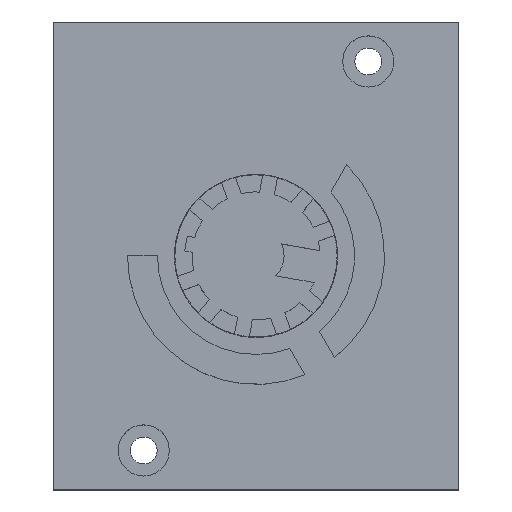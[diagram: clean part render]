
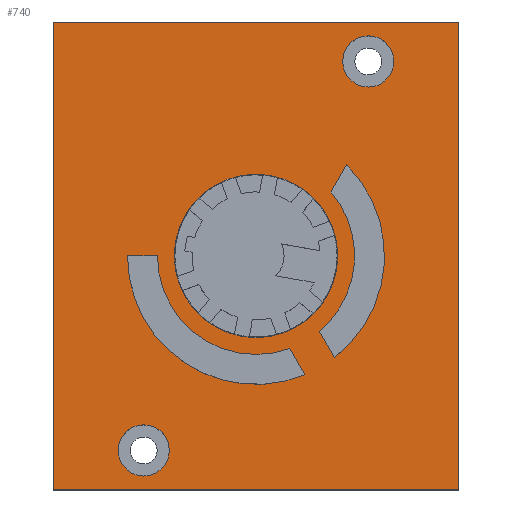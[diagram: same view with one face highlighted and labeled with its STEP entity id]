
A CAD part, top view. The second image highlights one B-rep face of the part: STEP entity #740.
In plain terms, the highlighted planar face has unit normal (0, 0, 1).
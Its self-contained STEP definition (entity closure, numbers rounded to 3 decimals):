
#247=DIRECTION('',(0.,-1.,0.));
#248=VECTOR('',#247,75.);
#249=CARTESIAN_POINT('',(-32.5,37.5,6.));
#250=LINE('',#249,#248);
#251=DIRECTION('',(-1.,0.,0.));
#252=VECTOR('',#251,65.);
#253=CARTESIAN_POINT('',(32.5,37.5,6.));
#254=LINE('',#253,#252);
#255=DIRECTION('',(0.,1.,0.));
#256=VECTOR('',#255,75.);
#257=CARTESIAN_POINT('',(32.5,-37.5,6.));
#258=LINE('',#257,#256);
#259=DIRECTION('',(1.,0.,0.));
#260=VECTOR('',#259,65.);
#261=CARTESIAN_POINT('',(-32.5,-37.5,6.));
#262=LINE('',#261,#260);
#263=CARTESIAN_POINT('',(0.,0.,6.));
#264=DIRECTION('',(0.,0.,1.));
#265=DIRECTION('',(-1.,0.,0.));
#266=AXIS2_PLACEMENT_3D('',#263,#264,#265);
#268=DIRECTION('',(-0.5,0.866,0.));
#269=VECTOR('',#268,4.857);
#270=CARTESIAN_POINT('',(7.826,-19.055,6.));
#271=LINE('',#270,#269);
#272=CARTESIAN_POINT('',(0.,0.,6.));
#273=DIRECTION('',(0.,0.,1.));
#274=DIRECTION('',(-1.,0.,0.));
#275=AXIS2_PLACEMENT_3D('',#272,#273,#274);
#277=DIRECTION('',(-1.,0.,0.));
#278=VECTOR('',#277,4.8);
#279=CARTESIAN_POINT('',(-15.8,0.,6.));
#280=LINE('',#279,#278);
#281=CARTESIAN_POINT('',(0.,0.,6.));
#282=DIRECTION('',(0.,0.,1.));
#283=DIRECTION('',(0.611,-0.792,0.));
#284=AXIS2_PLACEMENT_3D('',#281,#282,#283);
#286=DIRECTION('',(-0.5,-0.866,0.));
#287=VECTOR('',#286,5.022);
#288=CARTESIAN_POINT('',(14.543,14.59,6.));
#289=LINE('',#288,#287);
#290=CARTESIAN_POINT('',(0.,0.,6.));
#291=DIRECTION('',(0.,0.,1.));
#292=DIRECTION('',(0.643,-0.766,0.));
#293=AXIS2_PLACEMENT_3D('',#290,#291,#292);
#295=DIRECTION('',(0.5,-0.866,0.));
#296=VECTOR('',#295,4.857);
#297=CARTESIAN_POINT('',(10.161,-12.099,6.));
#298=LINE('',#297,#296);
#299=CARTESIAN_POINT('',(0.,0.,6.));
#300=DIRECTION('',(0.,0.,1.));
#301=DIRECTION('',(1.,0.,0.));
#302=AXIS2_PLACEMENT_3D('',#299,#300,#301);
#304=CARTESIAN_POINT('',(0.,0.,6.));
#305=DIRECTION('',(0.,0.,1.));
#306=DIRECTION('',(-1.,0.,0.));
#307=AXIS2_PLACEMENT_3D('',#304,#305,#306);
#309=CARTESIAN_POINT('',(18.,31.177,6.));
#310=DIRECTION('',(0.,0.,1.));
#311=DIRECTION('',(1.,0.,0.));
#312=AXIS2_PLACEMENT_3D('',#309,#310,#311);
#314=CARTESIAN_POINT('',(18.,31.177,6.));
#315=DIRECTION('',(0.,0.,1.));
#316=DIRECTION('',(-1.,0.,0.));
#317=AXIS2_PLACEMENT_3D('',#314,#315,#316);
#319=CARTESIAN_POINT('',(-18.,-31.177,6.));
#320=DIRECTION('',(0.,0.,1.));
#321=DIRECTION('',(1.,0.,0.));
#322=AXIS2_PLACEMENT_3D('',#319,#320,#321);
#324=CARTESIAN_POINT('',(-18.,-31.177,6.));
#325=DIRECTION('',(0.,0.,1.));
#326=DIRECTION('',(-1.,0.,0.));
#327=AXIS2_PLACEMENT_3D('',#324,#325,#326);
#513=CARTESIAN_POINT('',(-32.5,37.5,6.));
#514=CARTESIAN_POINT('',(-32.5,-37.5,6.));
#515=VERTEX_POINT('',#513);
#516=VERTEX_POINT('',#514);
#517=CARTESIAN_POINT('',(32.5,-37.5,6.));
#518=VERTEX_POINT('',#517);
#519=CARTESIAN_POINT('',(32.5,37.5,6.));
#520=VERTEX_POINT('',#519);
#545=CARTESIAN_POINT('',(-20.6,0.,6.));
#546=CARTESIAN_POINT('',(7.826,-19.055,6.));
#547=VERTEX_POINT('',#545);
#548=VERTEX_POINT('',#546);
#549=CARTESIAN_POINT('',(5.398,-14.849,6.));
#550=VERTEX_POINT('',#549);
#551=CARTESIAN_POINT('',(-15.8,0.,6.));
#552=VERTEX_POINT('',#551);
#553=CARTESIAN_POINT('',(12.589,-16.305,6.));
#554=CARTESIAN_POINT('',(14.543,14.59,6.));
#555=VERTEX_POINT('',#553);
#556=VERTEX_POINT('',#554);
#557=CARTESIAN_POINT('',(12.032,10.24,6.));
#558=VERTEX_POINT('',#557);
#559=CARTESIAN_POINT('',(10.161,-12.099,6.));
#560=VERTEX_POINT('',#559);
#561=CARTESIAN_POINT('',(13.1,0.,6.));
#562=CARTESIAN_POINT('',(-13.1,0.,6.));
#563=VERTEX_POINT('',#561);
#564=VERTEX_POINT('',#562);
#577=CARTESIAN_POINT('',(22.1,31.177,6.));
#578=CARTESIAN_POINT('',(13.9,31.177,6.));
#579=VERTEX_POINT('',#577);
#580=VERTEX_POINT('',#578);
#581=CARTESIAN_POINT('',(-13.9,-31.177,6.));
#582=CARTESIAN_POINT('',(-22.1,-31.177,6.));
#583=VERTEX_POINT('',#581);
#584=VERTEX_POINT('',#582);
#691=CARTESIAN_POINT('',(0.,0.,6.));
#692=DIRECTION('',(0.,0.,1.));
#693=DIRECTION('',(1.,0.,0.));
#694=AXIS2_PLACEMENT_3D('',#691,#692,#693);
#695=PLANE('',#694);
#696=ORIENTED_EDGE('',*,*,#643,.F.);
#697=ORIENTED_EDGE('',*,*,#658,.F.);
#698=ORIENTED_EDGE('',*,*,#672,.F.);
#699=ORIENTED_EDGE('',*,*,#685,.F.);
#700=EDGE_LOOP('',(#696,#697,#698,#699));
#701=FACE_OUTER_BOUND('',#700,.F.);
#703=ORIENTED_EDGE('',*,*,#702,.T.);
#705=ORIENTED_EDGE('',*,*,#704,.T.);
#707=ORIENTED_EDGE('',*,*,#706,.F.);
#709=ORIENTED_EDGE('',*,*,#708,.T.);
#710=EDGE_LOOP('',(#703,#705,#707,#709));
#711=FACE_BOUND('',#710,.F.);
#713=ORIENTED_EDGE('',*,*,#712,.T.);
#715=ORIENTED_EDGE('',*,*,#714,.T.);
#717=ORIENTED_EDGE('',*,*,#716,.F.);
#719=ORIENTED_EDGE('',*,*,#718,.T.);
#720=EDGE_LOOP('',(#713,#715,#717,#719));
#721=FACE_BOUND('',#720,.F.);
#723=ORIENTED_EDGE('',*,*,#722,.T.);
#725=ORIENTED_EDGE('',*,*,#724,.T.);
#726=EDGE_LOOP('',(#723,#725));
#727=FACE_BOUND('',#726,.F.);
#729=ORIENTED_EDGE('',*,*,#728,.T.);
#731=ORIENTED_EDGE('',*,*,#730,.T.);
#732=EDGE_LOOP('',(#729,#731));
#733=FACE_BOUND('',#732,.F.);
#735=ORIENTED_EDGE('',*,*,#734,.T.);
#737=ORIENTED_EDGE('',*,*,#736,.T.);
#738=EDGE_LOOP('',(#735,#737));
#739=FACE_BOUND('',#738,.F.);
#267=CIRCLE('',#266,20.6);
#276=CIRCLE('',#275,15.8);
#285=CIRCLE('',#284,20.6);
#294=CIRCLE('',#293,15.8);
#303=CIRCLE('',#302,13.1);
#308=CIRCLE('',#307,13.1);
#313=CIRCLE('',#312,4.1);
#318=CIRCLE('',#317,4.1);
#323=CIRCLE('',#322,4.1);
#328=CIRCLE('',#327,4.1);
#643=EDGE_CURVE('',#515,#516,#250,.T.);
#658=EDGE_CURVE('',#520,#515,#254,.T.);
#672=EDGE_CURVE('',#518,#520,#258,.T.);
#685=EDGE_CURVE('',#516,#518,#262,.T.);
#702=EDGE_CURVE('',#547,#548,#267,.T.);
#704=EDGE_CURVE('',#548,#550,#271,.T.);
#706=EDGE_CURVE('',#552,#550,#276,.T.);
#708=EDGE_CURVE('',#552,#547,#280,.T.);
#712=EDGE_CURVE('',#555,#556,#285,.T.);
#714=EDGE_CURVE('',#556,#558,#289,.T.);
#716=EDGE_CURVE('',#560,#558,#294,.T.);
#718=EDGE_CURVE('',#560,#555,#298,.T.);
#722=EDGE_CURVE('',#563,#564,#303,.T.);
#724=EDGE_CURVE('',#564,#563,#308,.T.);
#728=EDGE_CURVE('',#579,#580,#313,.T.);
#730=EDGE_CURVE('',#580,#579,#318,.T.);
#734=EDGE_CURVE('',#583,#584,#323,.T.);
#736=EDGE_CURVE('',#584,#583,#328,.T.);
#740=ADVANCED_FACE('',(#701,#711,#721,#727,#733,#739),#695,.T.);
